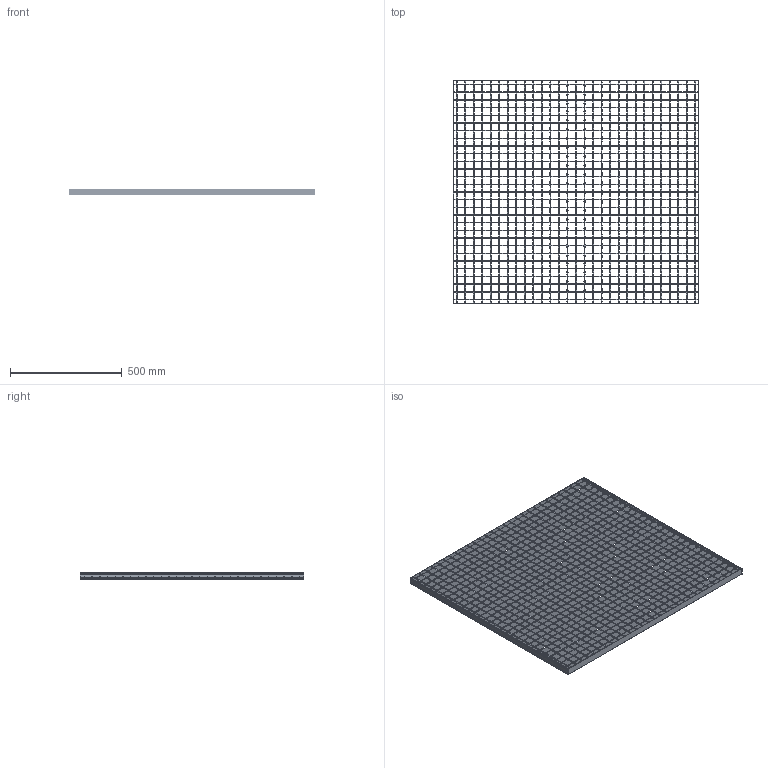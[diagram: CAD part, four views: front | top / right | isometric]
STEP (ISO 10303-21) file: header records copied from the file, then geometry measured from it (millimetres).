
FILE_DESCRIPTION(/* description */ ('STEP AP242','CAx-IF Rec.Pracs.---Representation and Presentation of Product Manufacturing Information (PMI)---4.0---2014-10-13','CAx-IF Rec.Pracs.---3D Tessellated Geometry---0.4---2014-09-14','2;1'),/* implementation_level */ '2;1');
FILE_NAME(/* name */ 'Lichtgitter_Forge_welded_gratings SP 230-34_38-2-1-1-1100-1000_(350_1_0)',/* time_stamp */ '2026-04-23T13:29:43+02:00',/* author */ ('License CC BY-ND 4.0'),/* organization */ ('CADENAS'),/* preprocessor_version */ 'ST-DEVELOPER v20',/* originating_system */ 'PARTsolutions',/* authorisation */ ' ');
FILE_SCHEMA (('AP242_MANAGED_MODEL_BASED_3D_ENGINEERING_MIM_LF { 1 0 10303 442 1 1 4 }'));
Length unit declared in the file: millimetre
Products named in the file (5): Lichtgitter_Forge_welded_gratings SP 230-34/38-2-1-1-1100-1000_(350_1
_0); Lichtgitter SP 230-34/38-2_(350_1_2_1100_1000_Schweisspressroste)_VER
TICAL_SIDES; Lichtgitter SP 230-34/38-2_(350_1_2_1100_1000_Schweisspressroste)_HOR
IZONTAL_C; Lichtgitter SP 230-34/38-2_(350_1_2_1100_1000_Schweisspressroste)_HOR
IZONTAL_SIDES; Lichtgitter SP 3.46530-34/38-3.465_(350_1_2_1100_1000_Schweisspressro
ste)_VERTICAL_C
Assembly tree (62 placements, depth 2):
  Lichtgitter_Forge_welded_gratings SP 230-34/38-2-1-1-1100-1000_(350_1
_0)
    Lichtgitter SP 230-34/38-2_(350_1_2_1100_1000_Schweisspressroste)_VER
TICAL_SIDES  x2
    Lichtgitter SP 230-34/38-2_(350_1_2_1100_1000_Schweisspressroste)_HOR
IZONTAL_C  x29
    Lichtgitter SP 230-34/38-2_(350_1_2_1100_1000_Schweisspressroste)_HOR
IZONTAL_SIDES  x2
    Lichtgitter SP 3.46530-34/38-3.465_(350_1_2_1100_1000_Schweisspressro
ste)_VERTICAL_C  x29
Bounding box: 1100 x 1000 x 30.72 mm (x, y, z)
Volume: 2459646.4 mm3; surface area: 2680600.4 mm2
Topology: 62 solids, 62 shells, 7762 faces, 17230 edges, 9592 vertices
Faces by surface type: bspline 5800, plane 1105, cylinder 857
Entity records: 9087 total; most frequent: CARTESIAN_POINT 2783, ORIENTED_EDGE 1300, DIRECTION 1026, EDGE_CURVE 650, LINE 572, VECTOR 572, VERTEX_POINT 368, EDGE_LOOP 290
